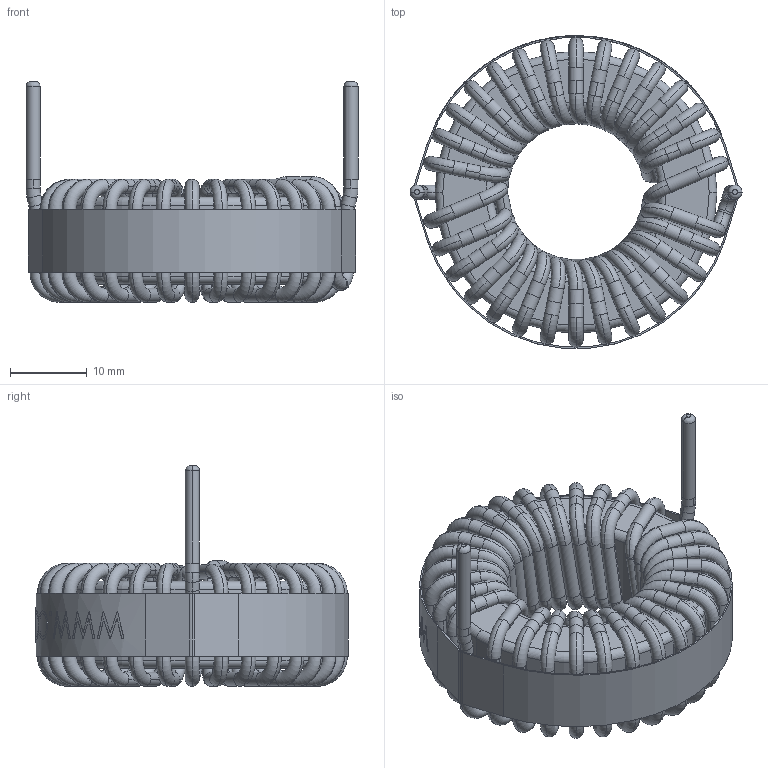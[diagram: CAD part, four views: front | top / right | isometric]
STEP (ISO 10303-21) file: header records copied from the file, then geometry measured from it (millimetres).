
FILE_DESCRIPTION (( 'STEP AP214' ), '1' );
FILE_NAME ('HF358-101M-15AH.STEP', '2021-03-18T10:30:07', ( '' ), ( '' ), 'SwSTEP 2.0', 'SolidWorks 2015', '' );
FILE_SCHEMA (( 'AUTOMOTIVE_DESIGN' ));
Length unit declared in the file: millimetre
Products named in the file (4): WINDING; HF358-101M-15AH; CORE; WRAPPER
Assembly tree (3 placements, depth 2):
  HF358-101M-15AH
    CORE
    WINDING
    WRAPPER
Bounding box: 43.23 x 40.7 x 28.73 mm (x, y, z)
Volume: 11496.4 mm3; surface area: 13334.6 mm2
Topology: 39 solids, 39 shells, 840 faces, 2188 edges, 1442 vertices
Faces by surface type: cylinder 352, torus 264, plane 121, bspline 103
Entity records: 39005 total; most frequent: CARTESIAN_POINT 14724, DIRECTION 4814, ORIENTED_EDGE 4376, AXIS2_PLACEMENT_3D 2217, EDGE_CURVE 2188, CIRCLE 1474, VERTEX_POINT 1442, EDGE_LOOP 860
